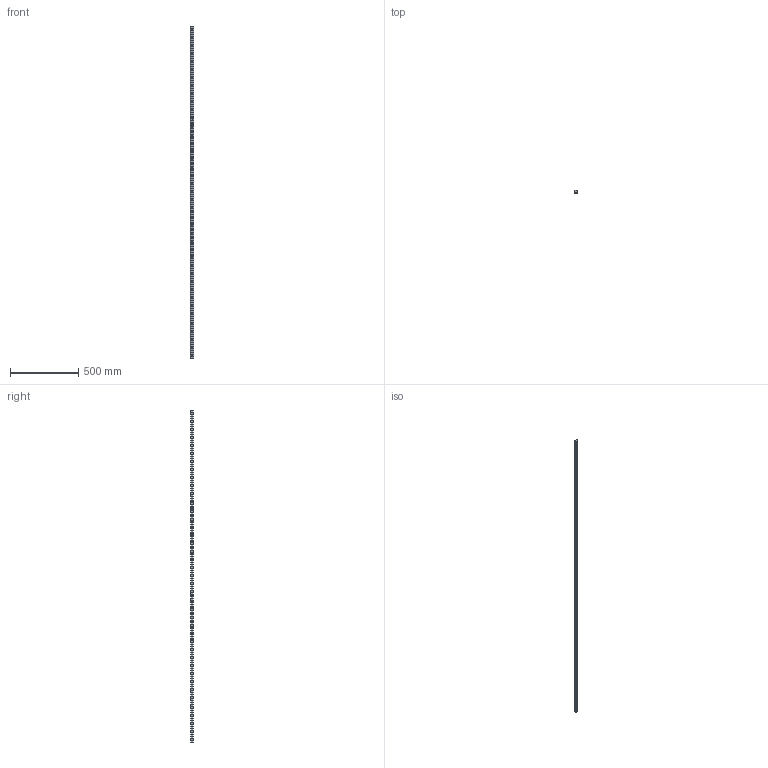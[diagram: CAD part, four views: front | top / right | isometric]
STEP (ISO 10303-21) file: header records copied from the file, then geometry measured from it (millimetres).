
FILE_DESCRIPTION (( 'STEP AP203' ), '1' );
FILE_NAME ('L1016.BL25-2440.step', '2019-06-12T12:11:14', ( '' ), ( '' ), 'SwSTEP 2.0', 'SolidWorks 2017', '' );
FILE_SCHEMA (( 'CONFIG_CONTROL_DESIGN' ));
Length unit declared in the file: millimetre
Products named in the file (1): L1016.BL25-2440
Bounding box: 23 x 19.2 x 2440 mm (x, y, z)
Volume: 899102.7 mm3; surface area: 231025.4 mm2
Topology: 1 solids, 1 shells, 231 faces, 564 edges, 376 vertices
Faces by surface type: cylinder 168, plane 63
Entity records: 7215 total; most frequent: DIRECTION 1364, CARTESIAN_POINT 1172, ORIENTED_EDGE 1128, AXIS2_PLACEMENT_3D 568, EDGE_CURVE 564, VERTEX_POINT 376, EDGE_LOOP 354, CIRCLE 336
